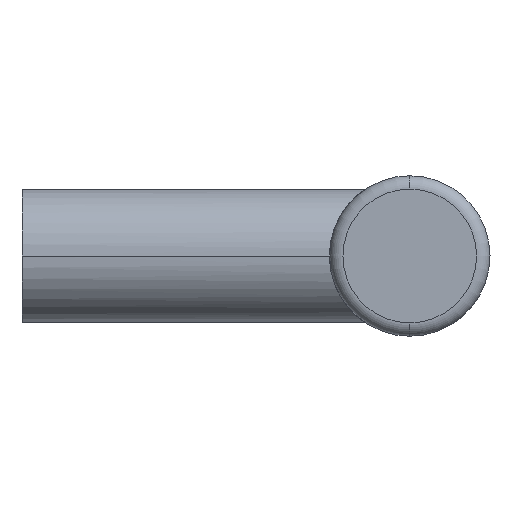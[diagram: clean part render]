
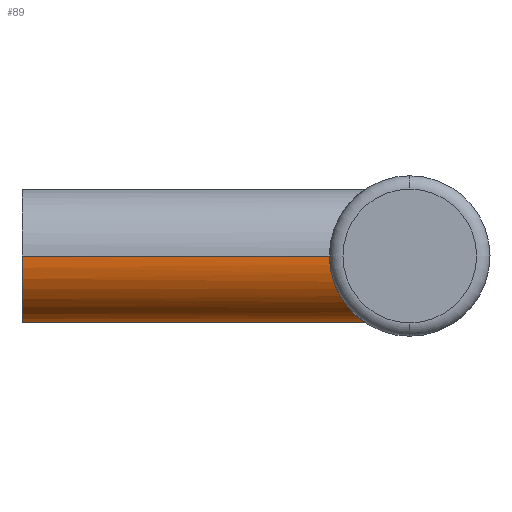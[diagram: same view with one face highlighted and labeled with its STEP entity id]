
A CAD part, left-side view. The second image highlights one B-rep face of the part: STEP entity #89.
In plain terms, the highlighted cylindrical face has radius 5 mm (diameter 10 mm), a partial arc.
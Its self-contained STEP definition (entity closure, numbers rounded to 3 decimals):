
#89 = ADVANCED_FACE( '', ( #126 ), #127, .T. );
#126 = FACE_OUTER_BOUND( '', #170, .T. );
#127 = CYLINDRICAL_SURFACE( '', #171, 5. );
#170 = EDGE_LOOP( '', ( #292, #293, #294, #295 ) );
#171 = AXIS2_PLACEMENT_3D( '', #296, #297, #298 );
#292 = ORIENTED_EDGE( '', *, *, #337, .T. );
#293 = ORIENTED_EDGE( '', *, *, #369, .F. );
#294 = ORIENTED_EDGE( '', *, *, #339, .T. );
#295 = ORIENTED_EDGE( '', *, *, #374, .F. );
#296 = CARTESIAN_POINT( '', ( 0., 0., 0. ) );
#297 = DIRECTION( '', ( 0., 1., 0. ) );
#298 = DIRECTION( '', ( 1., 0., 0. ) );
#337 = EDGE_CURVE( '', #386, #387, #388, .T. );
#339 = EDGE_CURVE( '', #391, #389, #392, .T. );
#369 = EDGE_CURVE( '', #391, #387, #443, .T. );
#374 = EDGE_CURVE( '', #386, #389, #448, .T. );
#386 = VERTEX_POINT( '', #496 );
#387 = VERTEX_POINT( '', #497 );
#388 = LINE( '', #498, #499 );
#389 = VERTEX_POINT( '', #500 );
#391 = VERTEX_POINT( '', #502 );
#392 = LINE( '', #503, #504 );
#443 = B_SPLINE_CURVE_WITH_KNOTS( '', 3, ( #628, #629, #630, #631, #632, #633, #634, #635, #636, #637, #638, #639, #640, #641, #642, #643, #644, #645, #646, #647, #648, #649, #650, #651, #652, #653, #654, #655, #656, #657, #658, #659, #660, #661 ), .UNSPECIFIED., .F., .F., ( 4, 2, 2, 2, 2, 2, 2, 2, 2, 2, 2, 2, 2, 2, 2, 2, 4 ), ( 8.161, 9.16, 10.159, 11.158, 12.157, 13.198, 14.239, 15.28, 16.322, 17.363, 18.404, 19.446, 20.487, 21.486, 22.485, 23.484, 24.483 ), .UNSPECIFIED. );
#448 = CIRCLE( '', #666, 5. );
#496 = CARTESIAN_POINT( '', ( 5., 0., 0. ) );
#497 = CARTESIAN_POINT( '', ( 5., -23., 0. ) );
#498 = CARTESIAN_POINT( '', ( 5., 0., 0. ) );
#499 = VECTOR( '', #673, 1. );
#500 = CARTESIAN_POINT( '', ( -5., 0., 0. ) );
#502 = CARTESIAN_POINT( '', ( -5., -23., 0. ) );
#503 = CARTESIAN_POINT( '', ( -5., 0., 0. ) );
#504 = VECTOR( '', #677, 1. );
#628 = CARTESIAN_POINT( '', ( -5., -23., 0. ) );
#629 = CARTESIAN_POINT( '', ( -5., -23., -0.333 ) );
#630 = CARTESIAN_POINT( '', ( -4.966, -23.028, -0.672 ) );
#631 = CARTESIAN_POINT( '', ( -4.83, -23.141, -1.335 ) );
#632 = CARTESIAN_POINT( '', ( -4.728, -23.225, -1.659 ) );
#633 = CARTESIAN_POINT( '', ( -4.467, -23.437, -2.272 ) );
#634 = CARTESIAN_POINT( '', ( -4.306, -23.566, -2.561 ) );
#635 = CARTESIAN_POINT( '', ( -3.946, -23.847, -3.088 ) );
#636 = CARTESIAN_POINT( '', ( -3.745, -24., -3.326 ) );
#637 = CARTESIAN_POINT( '', ( -3.317, -24.311, -3.754 ) );
#638 = CARTESIAN_POINT( '', ( -3.073, -24.483, -3.957 ) );
#639 = CARTESIAN_POINT( '', ( -2.544, -24.825, -4.316 ) );
#640 = CARTESIAN_POINT( '', ( -2.259, -24.995, -4.472 ) );
#641 = CARTESIAN_POINT( '', ( -1.659, -25.301, -4.728 ) );
#642 = CARTESIAN_POINT( '', ( -1.343, -25.436, -4.828 ) );
#643 = CARTESIAN_POINT( '', ( -0.687, -25.627, -4.964 ) );
#644 = CARTESIAN_POINT( '', ( -0.347, -25.683, -5. ) );
#645 = CARTESIAN_POINT( '', ( 0.347, -25.683, -5. ) );
#646 = CARTESIAN_POINT( '', ( 0.687, -25.627, -4.964 ) );
#647 = CARTESIAN_POINT( '', ( 1.343, -25.436, -4.828 ) );
#648 = CARTESIAN_POINT( '', ( 1.659, -25.301, -4.728 ) );
#649 = CARTESIAN_POINT( '', ( 2.259, -24.995, -4.472 ) );
#650 = CARTESIAN_POINT( '', ( 2.544, -24.825, -4.316 ) );
#651 = CARTESIAN_POINT( '', ( 3.073, -24.483, -3.957 ) );
#652 = CARTESIAN_POINT( '', ( 3.317, -24.311, -3.754 ) );
#653 = CARTESIAN_POINT( '', ( 3.745, -24., -3.326 ) );
#654 = CARTESIAN_POINT( '', ( 3.946, -23.847, -3.088 ) );
#655 = CARTESIAN_POINT( '', ( 4.306, -23.566, -2.561 ) );
#656 = CARTESIAN_POINT( '', ( 4.467, -23.437, -2.272 ) );
#657 = CARTESIAN_POINT( '', ( 4.728, -23.225, -1.659 ) );
#658 = CARTESIAN_POINT( '', ( 4.83, -23.141, -1.335 ) );
#659 = CARTESIAN_POINT( '', ( 4.966, -23.028, -0.672 ) );
#660 = CARTESIAN_POINT( '', ( 5., -23., -0.333 ) );
#661 = CARTESIAN_POINT( '', ( 5., -23., 0. ) );
#666 = AXIS2_PLACEMENT_3D( '', #756, #757, #758 );
#673 = DIRECTION( '', ( 0., -1., 0. ) );
#677 = DIRECTION( '', ( 0., 1., 0. ) );
#756 = CARTESIAN_POINT( '', ( 0., 0., 0. ) );
#757 = DIRECTION( '', ( 0., 1., 0. ) );
#758 = DIRECTION( '', ( 1., 0., 0. ) );
